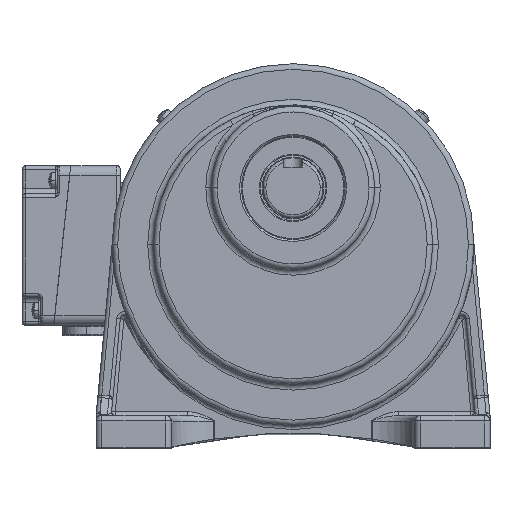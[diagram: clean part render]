
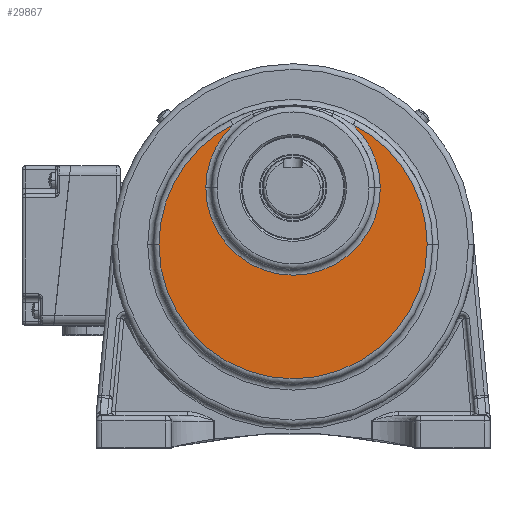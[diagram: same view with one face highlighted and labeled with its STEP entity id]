
A CAD part, top view. The second image highlights one B-rep face of the part: STEP entity #29867.
In plain terms, the highlighted planar face has unit normal (0, 0, 1).
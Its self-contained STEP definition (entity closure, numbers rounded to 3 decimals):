
#4396 = EDGE_CURVE ( 'NONE', #98405, #20645, #102437, .T. ) ;
#6760 = DIRECTION ( 'NONE',  ( 0., 0., 1. ) ) ;
#10083 = CARTESIAN_POINT ( 'NONE',  ( 0., 0., 112. ) ) ;
#10644 = AXIS2_PLACEMENT_3D ( 'NONE', #33845, #91484, #42137 ) ;
#11796 = VERTEX_POINT ( 'NONE', #45065 ) ;
#14800 = VERTEX_POINT ( 'NONE', #53826 ) ;
#17495 = CIRCLE ( 'NONE', #51135, 71.5 ) ;
#18400 = CARTESIAN_POINT ( 'NONE',  ( -32.05, 63.914, 112. ) ) ;
#18462 = DIRECTION ( 'NONE',  ( 1., 0., 0. ) ) ;
#20645 = VERTEX_POINT ( 'NONE', #18400 ) ;
#21240 = CARTESIAN_POINT ( 'NONE',  ( 0., 0., 112. ) ) ;
#27085 = CIRCLE ( 'NONE', #85695, 71.5 ) ;
#29563 = DIRECTION ( 'NONE',  ( 1., 0., 0. ) ) ;
#29867 = ADVANCED_FACE ( 'NONE', ( #87680 ), #56334, .T. ) ;
#32587 = VERTEX_POINT ( 'NONE', #95734 ) ;
#33636 = VERTEX_POINT ( 'NONE', #64654 ) ;
#33845 = CARTESIAN_POINT ( 'NONE',  ( 0., 30.224, 112. ) ) ;
#36216 = ORIENTED_EDGE ( 'NONE', *, *, #97606, .T. ) ;
#39843 = EDGE_CURVE ( 'NONE', #11796, #14800, #17495, .T. ) ;
#41116 = DIRECTION ( 'NONE',  ( 0., 0., 1. ) ) ;
#41587 = CARTESIAN_POINT ( 'NONE',  ( 0., 30.224, 112. ) ) ;
#42137 = DIRECTION ( 'NONE',  ( 1., 0., 0. ) ) ;
#42193 = EDGE_CURVE ( 'NONE', #33636, #11796, #84437, .T. ) ;
#43943 = EDGE_CURVE ( 'NONE', #32587, #98405, #82802, .T. ) ;
#44684 = AXIS2_PLACEMENT_3D ( 'NONE', #41587, #99282, #49866 ) ;
#45065 = CARTESIAN_POINT ( 'NONE',  ( 71.5, 0., 112. ) ) ;
#46612 = CARTESIAN_POINT ( 'NONE',  ( 0., 30.224, 112. ) ) ;
#47435 = CIRCLE ( 'NONE', #65947, 46.5 ) ;
#49759 = EDGE_CURVE ( 'NONE', #14800, #32587, #47435, .T. ) ;
#49866 = DIRECTION ( 'NONE',  ( 1., 0., 0. ) ) ;
#51135 = AXIS2_PLACEMENT_3D ( 'NONE', #10083, #67912, #18462 ) ;
#53826 = CARTESIAN_POINT ( 'NONE',  ( 32.05, 63.914, 112. ) ) ;
#54164 = ORIENTED_EDGE ( 'NONE', *, *, #49759, .T. ) ;
#54892 = DIRECTION ( 'NONE',  ( 1., 0., 0. ) ) ;
#56334 = PLANE ( 'NONE',  #57136 ) ;
#57136 = AXIS2_PLACEMENT_3D ( 'NONE', #89101, #6760, #64630 ) ;
#64630 = DIRECTION ( 'NONE',  ( 1., 0., 0. ) ) ;
#64654 = CARTESIAN_POINT ( 'NONE',  ( -71.5, 0., 112. ) ) ;
#65145 = ORIENTED_EDGE ( 'NONE', *, *, #4396, .T. ) ;
#65947 = AXIS2_PLACEMENT_3D ( 'NONE', #46612, #104303, #54892 ) ;
#67610 = ORIENTED_EDGE ( 'NONE', *, *, #39843, .T. ) ;
#67912 = DIRECTION ( 'NONE',  ( 0., 0., 1. ) ) ;
#74348 = ORIENTED_EDGE ( 'NONE', *, *, #42193, .T. ) ;
#78091 = CARTESIAN_POINT ( 'NONE',  ( -46.5, 30.224, 112. ) ) ;
#78962 = DIRECTION ( 'NONE',  ( 0., 0., 1. ) ) ;
#82494 = AXIS2_PLACEMENT_3D ( 'NONE', #21240, #78962, #29563 ) ;
#82802 = CIRCLE ( 'NONE', #10644, 46.5 ) ;
#84437 = CIRCLE ( 'NONE', #82494, 71.5 ) ;
#85695 = AXIS2_PLACEMENT_3D ( 'NONE', #90472, #41116, #98814 ) ;
#87680 = FACE_OUTER_BOUND ( 'NONE', #95351, .T. ) ;
#89101 = CARTESIAN_POINT ( 'NONE',  ( 0., 74.5, 112. ) ) ;
#90472 = CARTESIAN_POINT ( 'NONE',  ( 0., 0., 112. ) ) ;
#91484 = DIRECTION ( 'NONE',  ( 0., 0., -1. ) ) ;
#95351 = EDGE_LOOP ( 'NONE', ( #54164, #97058, #65145, #36216, #74348, #67610 ) ) ;
#95734 = CARTESIAN_POINT ( 'NONE',  ( 46.5, 30.224, 112. ) ) ;
#97058 = ORIENTED_EDGE ( 'NONE', *, *, #43943, .T. ) ;
#97606 = EDGE_CURVE ( 'NONE', #20645, #33636, #27085, .T. ) ;
#98405 = VERTEX_POINT ( 'NONE', #78091 ) ;
#98814 = DIRECTION ( 'NONE',  ( 1., 0., 0. ) ) ;
#99282 = DIRECTION ( 'NONE',  ( 0., 0., -1. ) ) ;
#102437 = CIRCLE ( 'NONE', #44684, 46.5 ) ;
#104303 = DIRECTION ( 'NONE',  ( 0., 0., -1. ) ) ;
